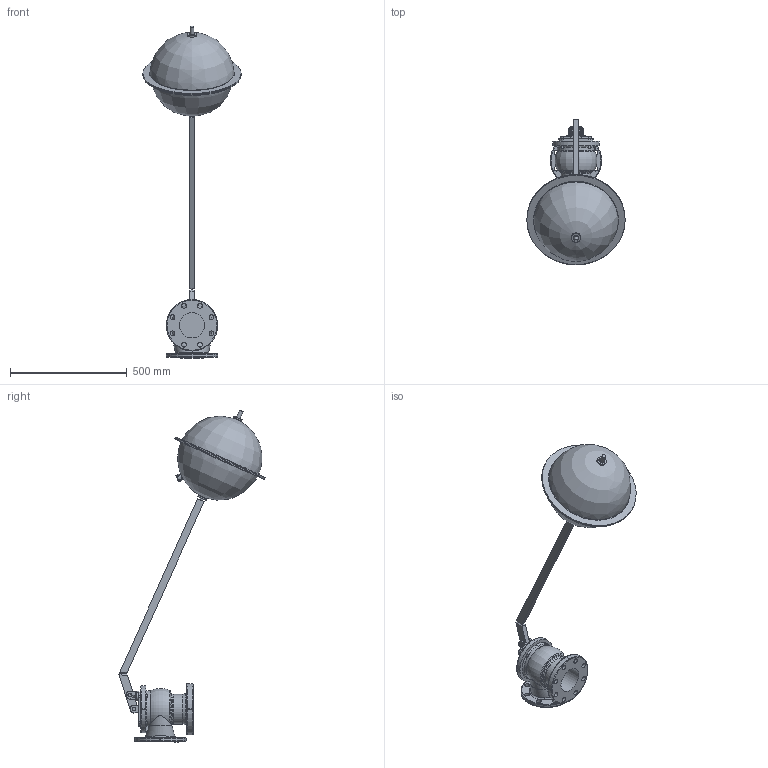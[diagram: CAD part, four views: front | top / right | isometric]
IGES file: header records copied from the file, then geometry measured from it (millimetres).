
Start section: SolidWorks IGES file using analytic representation for surfaces
Global section: file name: \\avksan2\techshare\PBM outline export from Enovia\O_854_00_DN100_BALL FLOAT VALVE_AA0_igs.igs; native system: SolidWorks 2012; preprocessor: SolidWorks 2012; author: pbm; date: 160920.093339; units: millimetre
Bounding box: 420 x 625.37 x 1419.73 mm (x, y, z)
Surface area: 973716.1 mm2 (no closed solid volume)
Topology: 0 solids, 0 shells, 362 faces, 1802 edges, 1706 vertices
Faces by surface type: revolution 193, bspline 169
